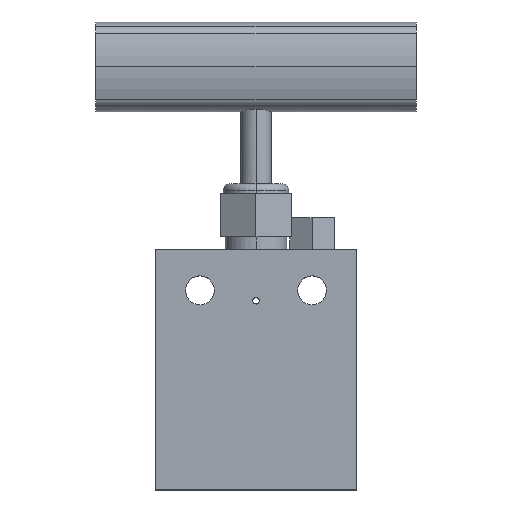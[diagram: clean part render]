
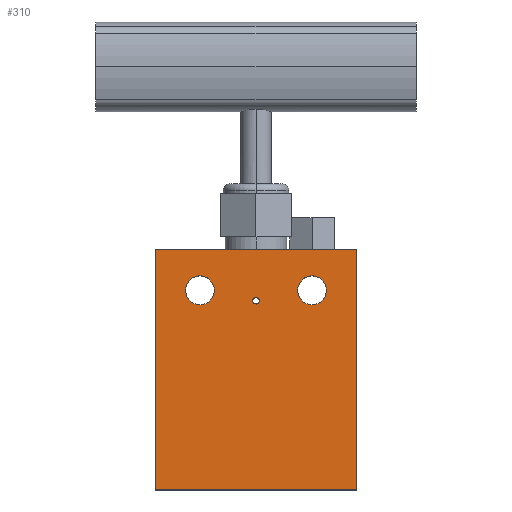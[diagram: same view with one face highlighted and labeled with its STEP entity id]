
A CAD part, top view. The second image highlights one B-rep face of the part: STEP entity #310.
In plain terms, the highlighted planar face has unit normal (0, 0, 1).
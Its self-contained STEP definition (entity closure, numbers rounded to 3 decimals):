
#7 = CARTESIAN_POINT ( 'NONE',  ( -31.5, 43., 12.5 ) ) ;
#29 = CARTESIAN_POINT ( 'NONE',  ( 13., 30.3, 12.5 ) ) ;
#40 = CARTESIAN_POINT ( 'NONE',  ( 1., 27., 12.5 ) ) ;
#62 = DIRECTION ( 'NONE',  ( 0., 0., 1. ) ) ;
#108 = CARTESIAN_POINT ( 'NONE',  ( 17.5, 30.3, 12.5 ) ) ;
#136 = DIRECTION ( 'NONE',  ( 1., 0., 0. ) ) ;
#144 = CARTESIAN_POINT ( 'NONE',  ( 31.5, -32., 12.5 ) ) ;
#149 = CARTESIAN_POINT ( 'NONE',  ( -17.5, 30.3, 12.5 ) ) ;
#186 = VERTEX_POINT ( 'NONE', #2820 ) ;
#221 = CARTESIAN_POINT ( 'NONE',  ( -1., 27., 12.5 ) ) ;
#274 = AXIS2_PLACEMENT_3D ( 'NONE', #108, #788, #2647 ) ;
#282 = EDGE_CURVE ( 'NONE', #1831, #506, #2074, .T. ) ;
#284 = VECTOR ( 'NONE', #2580, 1000. ) ;
#310 = ADVANCED_FACE ( 'NONE', ( #1510, #585, #2907, #1219 ), #803, .T. ) ;
#325 = DIRECTION ( 'NONE',  ( 1., 0., 0. ) ) ;
#506 = VERTEX_POINT ( 'NONE', #1599 ) ;
#509 = EDGE_CURVE ( 'NONE', #1375, #1801, #2584, .T. ) ;
#570 = VERTEX_POINT ( 'NONE', #40 ) ;
#585 = FACE_BOUND ( 'NONE', #1294, .T. ) ;
#593 = DIRECTION ( 'NONE',  ( 0., 0., 1. ) ) ;
#601 = ORIENTED_EDGE ( 'NONE', *, *, #2356, .F. ) ;
#626 = CIRCLE ( 'NONE', #1011, 4.5 ) ;
#669 = VERTEX_POINT ( 'NONE', #144 ) ;
#680 = CIRCLE ( 'NONE', #2577, 4.5 ) ;
#743 = ORIENTED_EDGE ( 'NONE', *, *, #1299, .T. ) ;
#746 = EDGE_LOOP ( 'NONE', ( #2004, #1633, #743, #1154 ) ) ;
#753 = CARTESIAN_POINT ( 'NONE',  ( -13., 30.3, 12.5 ) ) ;
#781 = AXIS2_PLACEMENT_3D ( 'NONE', #2651, #62, #325 ) ;
#787 = CARTESIAN_POINT ( 'NONE',  ( 17.5, 30.3, 12.5 ) ) ;
#788 = DIRECTION ( 'NONE',  ( 0., 0., 1. ) ) ;
#803 = PLANE ( 'NONE',  #2419 ) ;
#814 = CARTESIAN_POINT ( 'NONE',  ( 0., 0., 12.5 ) ) ;
#851 = EDGE_LOOP ( 'NONE', ( #2537, #2065 ) ) ;
#856 = VERTEX_POINT ( 'NONE', #221 ) ;
#912 = CARTESIAN_POINT ( 'NONE',  ( 31.5, 43., 12.5 ) ) ;
#963 = EDGE_CURVE ( 'NONE', #856, #570, #2680, .T. ) ;
#1011 = AXIS2_PLACEMENT_3D ( 'NONE', #3031, #2307, #1868 ) ;
#1028 = ORIENTED_EDGE ( 'NONE', *, *, #1112, .F. ) ;
#1030 = VERTEX_POINT ( 'NONE', #753 ) ;
#1112 = EDGE_CURVE ( 'NONE', #570, #856, #1167, .T. ) ;
#1114 = VECTOR ( 'NONE', #1779, 1000. ) ;
#1126 = CARTESIAN_POINT ( 'NONE',  ( -31.5, 43., 12.5 ) ) ;
#1154 = ORIENTED_EDGE ( 'NONE', *, *, #1305, .T. ) ;
#1167 = CIRCLE ( 'NONE', #1497, 1. ) ;
#1171 = EDGE_CURVE ( 'NONE', #1801, #669, #2139, .T. ) ;
#1219 = FACE_OUTER_BOUND ( 'NONE', #746, .T. ) ;
#1294 = EDGE_LOOP ( 'NONE', ( #601, #2747 ) ) ;
#1299 = EDGE_CURVE ( 'NONE', #669, #2261, #2744, .T. ) ;
#1305 = EDGE_CURVE ( 'NONE', #2261, #1375, #1644, .T. ) ;
#1347 = VECTOR ( 'NONE', #136, 1000. ) ;
#1375 = VERTEX_POINT ( 'NONE', #1629 ) ;
#1422 = CARTESIAN_POINT ( 'NONE',  ( 31.5, 43., 12.5 ) ) ;
#1497 = AXIS2_PLACEMENT_3D ( 'NONE', #2141, #2857, #2621 ) ;
#1510 = FACE_BOUND ( 'NONE', #2762, .T. ) ;
#1599 = CARTESIAN_POINT ( 'NONE',  ( 22., 30.3, 12.5 ) ) ;
#1629 = CARTESIAN_POINT ( 'NONE',  ( -31.5, 43., 12.5 ) ) ;
#1633 = ORIENTED_EDGE ( 'NONE', *, *, #1171, .T. ) ;
#1644 = LINE ( 'NONE', #7, #284 ) ;
#1722 = DIRECTION ( 'NONE',  ( -1., 0., 0. ) ) ;
#1779 = DIRECTION ( 'NONE',  ( 0., 1., 0. ) ) ;
#1801 = VERTEX_POINT ( 'NONE', #2369 ) ;
#1831 = VERTEX_POINT ( 'NONE', #29 ) ;
#1868 = DIRECTION ( 'NONE',  ( 1., 0., 0. ) ) ;
#1964 = DIRECTION ( 'NONE',  ( 0., 0., 1. ) ) ;
#2004 = ORIENTED_EDGE ( 'NONE', *, *, #509, .T. ) ;
#2058 = DIRECTION ( 'NONE',  ( 0., -1., 0. ) ) ;
#2065 = ORIENTED_EDGE ( 'NONE', *, *, #282, .F. ) ;
#2074 = CIRCLE ( 'NONE', #274, 4.5 ) ;
#2139 = LINE ( 'NONE', #2165, #1347 ) ;
#2141 = CARTESIAN_POINT ( 'NONE',  ( 0., 27., 12.5 ) ) ;
#2165 = CARTESIAN_POINT ( 'NONE',  ( -31.5, -32., 12.5 ) ) ;
#2173 = VECTOR ( 'NONE', #2058, 1000. ) ;
#2261 = VERTEX_POINT ( 'NONE', #1422 ) ;
#2307 = DIRECTION ( 'NONE',  ( 0., 0., 1. ) ) ;
#2337 = ORIENTED_EDGE ( 'NONE', *, *, #963, .F. ) ;
#2356 = EDGE_CURVE ( 'NONE', #1030, #186, #626, .T. ) ;
#2369 = CARTESIAN_POINT ( 'NONE',  ( -31.5, -32., 12.5 ) ) ;
#2376 = CIRCLE ( 'NONE', #2782, 4.5 ) ;
#2382 = DIRECTION ( 'NONE',  ( 0., 0., 1. ) ) ;
#2403 = EDGE_CURVE ( 'NONE', #506, #1831, #680, .T. ) ;
#2419 = AXIS2_PLACEMENT_3D ( 'NONE', #814, #2382, #2615 ) ;
#2537 = ORIENTED_EDGE ( 'NONE', *, *, #2403, .F. ) ;
#2577 = AXIS2_PLACEMENT_3D ( 'NONE', #787, #1964, #1722 ) ;
#2580 = DIRECTION ( 'NONE',  ( -1., 0., 0. ) ) ;
#2584 = LINE ( 'NONE', #1126, #2173 ) ;
#2591 = EDGE_CURVE ( 'NONE', #186, #1030, #2376, .T. ) ;
#2615 = DIRECTION ( 'NONE',  ( 1., 0., 0. ) ) ;
#2621 = DIRECTION ( 'NONE',  ( 1., 0., 0. ) ) ;
#2647 = DIRECTION ( 'NONE',  ( -1., 0., 0. ) ) ;
#2651 = CARTESIAN_POINT ( 'NONE',  ( 0., 27., 12.5 ) ) ;
#2680 = CIRCLE ( 'NONE', #781, 1. ) ;
#2744 = LINE ( 'NONE', #912, #1114 ) ;
#2747 = ORIENTED_EDGE ( 'NONE', *, *, #2591, .F. ) ;
#2762 = EDGE_LOOP ( 'NONE', ( #1028, #2337 ) ) ;
#2782 = AXIS2_PLACEMENT_3D ( 'NONE', #149, #593, #2948 ) ;
#2820 = CARTESIAN_POINT ( 'NONE',  ( -22., 30.3, 12.5 ) ) ;
#2857 = DIRECTION ( 'NONE',  ( 0., 0., 1. ) ) ;
#2907 = FACE_BOUND ( 'NONE', #851, .T. ) ;
#2948 = DIRECTION ( 'NONE',  ( 1., 0., 0. ) ) ;
#3031 = CARTESIAN_POINT ( 'NONE',  ( -17.5, 30.3, 12.5 ) ) ;
